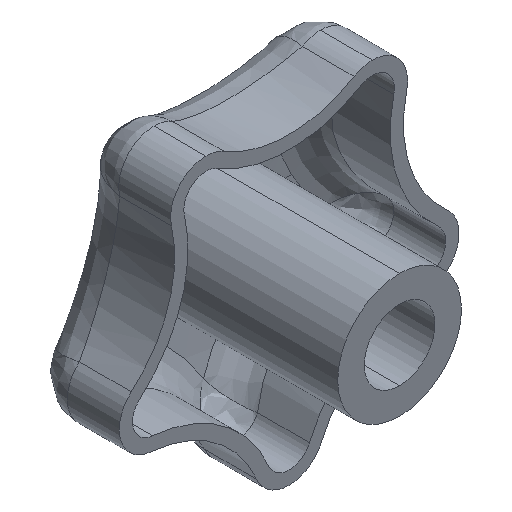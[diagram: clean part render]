
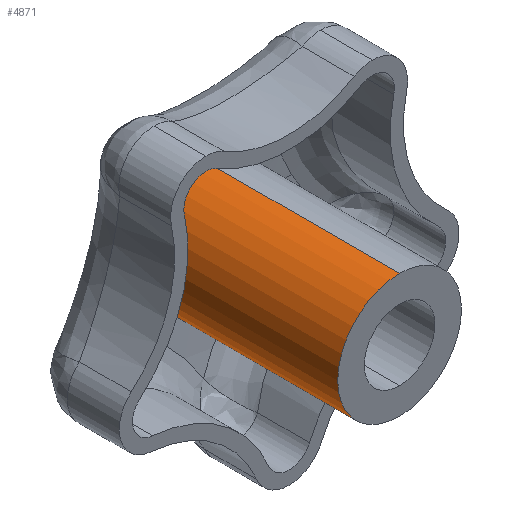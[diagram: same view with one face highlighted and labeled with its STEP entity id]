
A CAD part, isometric view. The second image highlights one B-rep face of the part: STEP entity #4871.
In plain terms, the highlighted cylindrical face has radius 7 mm (diameter 14 mm), a partial arc.
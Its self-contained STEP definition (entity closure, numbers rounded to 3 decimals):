
#70 = DIRECTION ( 'NONE',  ( 0., -1., 0. ) ) ;
#71 = CARTESIAN_POINT ( 'NONE',  ( 0., 500000., 0. ) ) ;
#72 = AXIS2_PLACEMENT_3D ( 'NONE', #71, #70, #227 ) ;
#75 = CYLINDRICAL_SURFACE ( 'NONE', #72, 7. ) ;
#76 = FACE_OUTER_BOUND ( 'NONE', #4872, .T. ) ;
#227 = DIRECTION ( 'NONE',  ( 0., 0., -1. ) ) ;
#1124 = DIRECTION ( 'NONE',  ( 0., 0., 1. ) ) ;
#1125 = DIRECTION ( 'NONE',  ( 0., 1., 0. ) ) ;
#1126 = CARTESIAN_POINT ( 'NONE',  ( 0., -12.5, 0. ) ) ;
#1127 = AXIS2_PLACEMENT_3D ( 'NONE', #1126, #1125, #1124 ) ;
#1128 = CIRCLE ( 'NONE', #1127, 7. ) ;
#3514 = CARTESIAN_POINT ( 'NONE',  ( -7., 10.692, 0. ) ) ;
#3518 = DIRECTION ( 'NONE',  ( 0., 0., -1. ) ) ;
#3530 = CARTESIAN_POINT ( 'NONE',  ( 0., 10.692, 0. ) ) ;
#3532 = CIRCLE ( 'NONE', #3585, 7. ) ;
#3585 = AXIS2_PLACEMENT_3D ( 'NONE', #3530, #3615, #3518 ) ;
#3615 = DIRECTION ( 'NONE',  ( 0., -1., 0. ) ) ;
#4514 = EDGE_CURVE ( 'NONE', #4582, #4668, #5244, .T. ) ;
#4582 = VERTEX_POINT ( 'NONE', #3514 ) ;
#4584 = EDGE_CURVE ( 'NONE', #4621, #4582, #3532, .T. ) ;
#4621 = VERTEX_POINT ( 'NONE', #6478 ) ;
#4623 = EDGE_CURVE ( 'NONE', #4621, #4624, #6438, .T. ) ;
#4624 = VERTEX_POINT ( 'NONE', #6434 ) ;
#4627 = VERTEX_POINT ( 'NONE', #6471 ) ;
#4629 = EDGE_CURVE ( 'NONE', #4668, #4627, #6462, .T. ) ;
#4668 = VERTEX_POINT ( 'NONE', #5394 ) ;
#4871 = ADVANCED_FACE ( 'NONE', ( #76 ), #75, .T. ) ;
#4872 = EDGE_LOOP ( 'NONE', ( #4873, #4874, #4875, #4876, #4877 ) ) ;
#4873 = ORIENTED_EDGE ( 'NONE', *, *, #4623, .F. ) ;
#4874 = ORIENTED_EDGE ( 'NONE', *, *, #4584, .T. ) ;
#4875 = ORIENTED_EDGE ( 'NONE', *, *, #4514, .T. ) ;
#4876 = ORIENTED_EDGE ( 'NONE', *, *, #4629, .T. ) ;
#4877 = ORIENTED_EDGE ( 'NONE', *, *, #4897, .T. ) ;
#4897 = EDGE_CURVE ( 'NONE', #4627, #4624, #1128, .T. ) ;
#5076 = DIRECTION ( 'NONE',  ( 0., 0., -1. ) ) ;
#5077 = DIRECTION ( 'NONE',  ( 0., -1., 0. ) ) ;
#5078 = CARTESIAN_POINT ( 'NONE',  ( 0., 10.692, 0. ) ) ;
#5243 = AXIS2_PLACEMENT_3D ( 'NONE', #5078, #5077, #5076 ) ;
#5244 = CIRCLE ( 'NONE', #5243, 7. ) ;
#5394 = CARTESIAN_POINT ( 'NONE',  ( 0., 10.692, -7. ) ) ;
#6433 = CARTESIAN_POINT ( 'NONE',  ( 0., 500000., 7. ) ) ;
#6434 = CARTESIAN_POINT ( 'NONE',  ( 0., -12.5, 7. ) ) ;
#6436 = DIRECTION ( 'NONE',  ( 0., -1., 0. ) ) ;
#6437 = VECTOR ( 'NONE', #6436, 1000. ) ;
#6438 = LINE ( 'NONE', #6433, #6444 ) ;
#6443 = DIRECTION ( 'NONE',  ( 0., -1., 0. ) ) ;
#6444 = VECTOR ( 'NONE', #6443, 1000. ) ;
#6461 = CARTESIAN_POINT ( 'NONE',  ( 0., 500000., -7. ) ) ;
#6462 = LINE ( 'NONE', #6461, #6437 ) ;
#6471 = CARTESIAN_POINT ( 'NONE',  ( 0., -12.5, -7. ) ) ;
#6478 = CARTESIAN_POINT ( 'NONE',  ( 0., 10.692, 7. ) ) ;
